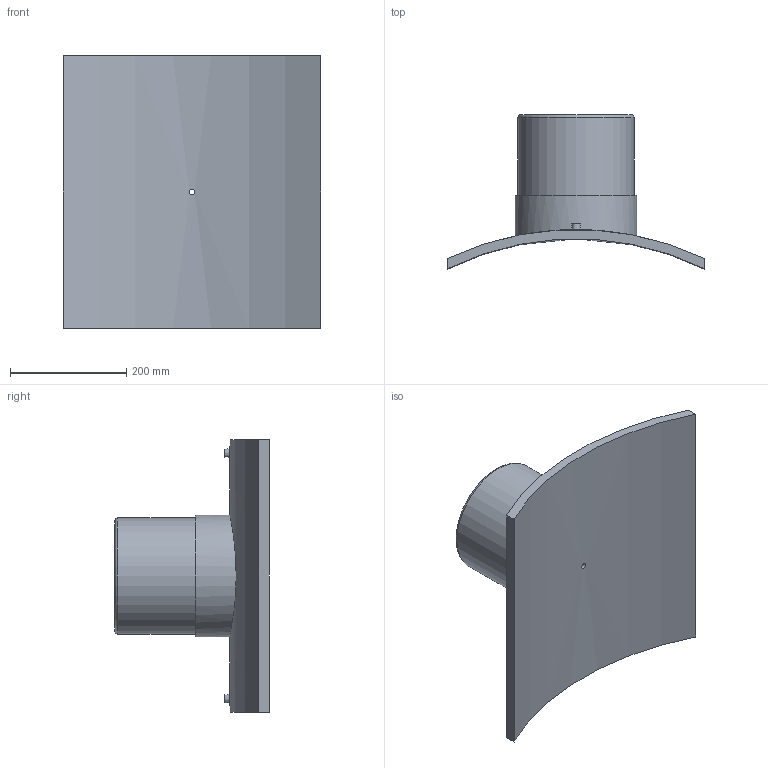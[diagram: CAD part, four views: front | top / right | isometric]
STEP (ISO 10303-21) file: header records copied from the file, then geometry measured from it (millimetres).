
FILE_DESCRIPTION(/* description */ ('PLASSON BRANCH SADDLE 1000x200'),/* implementation_level */ '2;1');
FILE_NAME(/* name */ 'C:\Dropbox\KIMPROJECTS-Inventor 2019\99-16-3568-Processing\ElectroFusion Fittings\495803\stp\4958031000200T.stp',/* time_stamp */ '2024-04-04T11:47:36+02:00',/* author */ ('KIM'),/* organization */ (''),/* preprocessor_version */ 'ST-DEVELOPER v17.2',/* originating_system */ 'Autodesk Inventor 2019',/* authorisation */ '');
FILE_SCHEMA (('AUTOMOTIVE_DESIGN { 1 0 10303 214 3 1 1 }'));
Length unit declared in the file: millimetre
Products named in the file (1): 4958031000200T
Bounding box: 443 x 265.74 x 470 mm (x, y, z)
Volume: 5946406.4 mm3; surface area: 700935.2 mm2
Topology: 1 solids, 1 shells, 29 faces, 60 edges, 43 vertices
Faces by surface type: plane 13, cylinder 12, torus 2, cone 2
Full cylindrical faces by diameter (mm): 4 x2, 9.6 x1, 10 x2, 16 x1, 160 x1, 200 x1, 210 x1
Entity records: 1086 total; most frequent: CARTESIAN_POINT 400, DIRECTION 139, ORIENTED_EDGE 120, EDGE_CURVE 60, AXIS2_PLACEMENT_3D 60, VERTEX_POINT 43, EDGE_LOOP 41, CIRCLE 30
